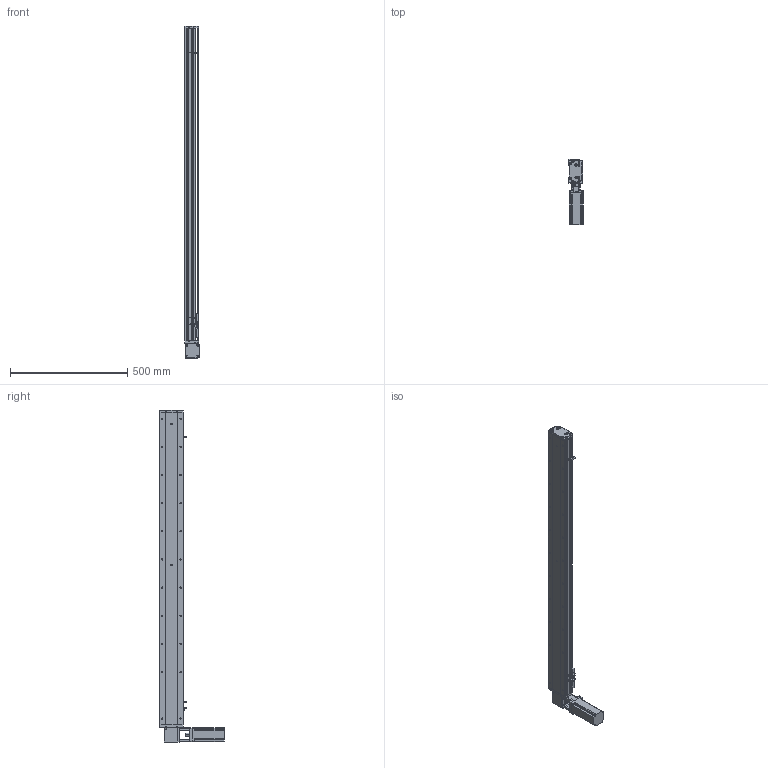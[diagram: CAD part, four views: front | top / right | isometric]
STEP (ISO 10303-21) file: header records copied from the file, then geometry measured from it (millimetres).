
FILE_DESCRIPTION (( 'STEP AP214' ), '1' );
FILE_NAME ('KSD100B-S1150-MLT-CM.STEP', '2019-11-11T05:22:18', ( '微软用户' ), ( '微软中国' ), 'SwSTEP 2.0', 'SolidWorks 2014', '' );
FILE_SCHEMA (( 'AUTOMOTIVE_DESIGN' ));
Length unit declared in the file: millimetre
Products named in the file (12): 100宽防尘板1150行程-同步带; U倰嫖萇EEㄜSX672; 覜茼え100遵圉猾敕; 台达ECMA－C20604AS伺服电机; 100宽马达安装板同步带右; 100宽同步带安装板半封闭; 100宽马达安装板同步带; 100遵傷啣肮祭湍; 100宽底板半封闭同步带1150行程; KSD100B-S1150-MLT-CM; 100宽安装板同步带带电机座400W,86; 100遵鎮湛假蚾啣1 
Assembly tree (13 placements, depth 2):
  KSD100B-S1150-MLT-CM
    100宽底板半封闭同步带1150行程
    100遵傷啣肮祭湍
    100宽马达安装板同步带
    100宽同步带安装板半封闭
    100宽马达安装板同步带右
    台达ECMA－C20604AS伺服电机
    覜茼え100遵圉猾敕
    U倰嫖萇EEㄜSX672  x3
    100宽防尘板1150行程-同步带
    100遵鎮湛假蚾啣1 
    100宽安装板同步带带电机座400W,86
Bounding box: 61 x 275 x 1415 mm (x, y, z)
Volume: 3110013.4 mm3; surface area: 1022222.2 mm2
Topology: 14 solids, 14 shells, 1490 faces, 4191 edges, 2657 vertices
Faces by surface type: cylinder 764, plane 579, cone 147
Entity records: 52515 total; most frequent: CARTESIAN_POINT 10696, DIRECTION 7295, ORIENTED_EDGE 6994, EDGE_CURVE 3497, AXIS2_PLACEMENT_3D 2690, VERTEX_POINT 2281, LINE 1915, VECTOR 1915
